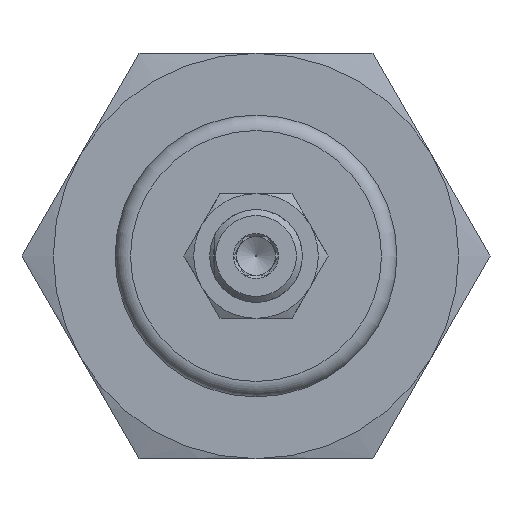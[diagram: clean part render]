
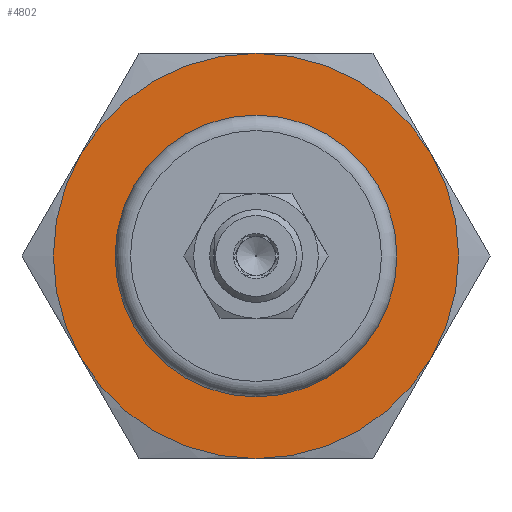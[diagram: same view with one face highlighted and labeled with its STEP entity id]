
A CAD part, left-side view. The second image highlights one B-rep face of the part: STEP entity #4802.
In plain terms, the highlighted planar face has unit normal (-1, 0, 0).
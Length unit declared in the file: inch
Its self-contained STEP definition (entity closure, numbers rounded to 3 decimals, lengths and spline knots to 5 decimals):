
#4165=CARTESIAN_POINT('',(-0.63,0.565,0.));
#4166=VERTEX_POINT('',#4165);
#4167=CARTESIAN_POINT('',(-0.63,0.0,0.));
#4168=DIRECTION('',(1.0,0.0,0.0));
#4169=DIRECTION('',(0.0,1.0,0.0));
#4170=AXIS2_PLACEMENT_3D('',#4167,#4168,#4169);
#4171=CIRCLE('',#4170,0.565);
#4172=EDGE_CURVE('',#4166,#4166,#4171,.T.);
#4208=CARTESIAN_POINT('',(-0.63,0.70365,0.40625));
#4209=VERTEX_POINT('',#4208);
#4290=CARTESIAN_POINT('',(-0.63,0.70365,-0.40625));
#4291=VERTEX_POINT('',#4290);
#4354=CARTESIAN_POINT('',(-0.63,0.0,0.8125));
#4355=VERTEX_POINT('',#4354);
#4449=CARTESIAN_POINT('',(-0.63,0.0,-0.8125));
#4450=VERTEX_POINT('',#4449);
#4522=CARTESIAN_POINT('',(-0.63,-0.70365,-0.40625));
#4523=VERTEX_POINT('',#4522);
#4586=CARTESIAN_POINT('',(-0.63,-0.70365,0.40625));
#4587=VERTEX_POINT('',#4586);
#4624=CARTESIAN_POINT('',(-0.63,0.0,0.));
#4625=DIRECTION('',(-1.0,0.0,0.0));
#4626=DIRECTION('',(0.0,0.0,1.0));
#4627=AXIS2_PLACEMENT_3D('',#4624,#4625,#4626);
#4628=CIRCLE('',#4627,0.8125);
#4629=EDGE_CURVE('',#4291,#4450,#4628,.T.);
#4641=CARTESIAN_POINT('',(-0.63,0.0,0.));
#4642=DIRECTION('',(-1.0,0.0,0.0));
#4643=DIRECTION('',(0.0,0.0,1.0));
#4644=AXIS2_PLACEMENT_3D('',#4641,#4642,#4643);
#4645=CIRCLE('',#4644,0.8125);
#4646=EDGE_CURVE('',#4450,#4523,#4645,.T.);
#4658=CARTESIAN_POINT('',(-0.63,0.0,0.));
#4659=DIRECTION('',(-1.0,0.0,0.0));
#4660=DIRECTION('',(0.0,0.0,1.0));
#4661=AXIS2_PLACEMENT_3D('',#4658,#4659,#4660);
#4662=CIRCLE('',#4661,0.8125);
#4663=EDGE_CURVE('',#4523,#4587,#4662,.T.);
#4676=CARTESIAN_POINT('',(-0.63,0.0,0.));
#4677=DIRECTION('',(-1.0,0.0,0.0));
#4678=DIRECTION('',(0.0,0.0,1.0));
#4679=AXIS2_PLACEMENT_3D('',#4676,#4677,#4678);
#4680=CIRCLE('',#4679,0.8125);
#4681=EDGE_CURVE('',#4587,#4355,#4680,.T.);
#4693=CARTESIAN_POINT('',(-0.63,0.0,0.));
#4694=DIRECTION('',(-1.0,0.0,0.0));
#4695=DIRECTION('',(0.0,0.0,1.0));
#4696=AXIS2_PLACEMENT_3D('',#4693,#4694,#4695);
#4697=CIRCLE('',#4696,0.8125);
#4698=EDGE_CURVE('',#4355,#4209,#4697,.T.);
#4710=CARTESIAN_POINT('',(-0.63,0.0,0.));
#4711=DIRECTION('',(-1.0,0.0,0.0));
#4712=DIRECTION('',(0.0,0.0,1.0));
#4713=AXIS2_PLACEMENT_3D('',#4710,#4711,#4712);
#4714=CIRCLE('',#4713,0.8125);
#4715=EDGE_CURVE('',#4209,#4291,#4714,.T.);
#4786=CARTESIAN_POINT('',(-0.63,0.,0.));
#4787=DIRECTION('',(-1.0,0.0,0.0));
#4788=DIRECTION('',(0.0,0.0,1.0));
#4789=AXIS2_PLACEMENT_3D('',#4786,#4787,#4788);
#4790=PLANE('',#4789);
#4791=ORIENTED_EDGE('',*,*,#4629,.T.);
#4792=ORIENTED_EDGE('',*,*,#4646,.T.);
#4793=ORIENTED_EDGE('',*,*,#4663,.T.);
#4794=ORIENTED_EDGE('',*,*,#4681,.T.);
#4795=ORIENTED_EDGE('',*,*,#4698,.T.);
#4796=ORIENTED_EDGE('',*,*,#4715,.T.);
#4797=EDGE_LOOP('',(#4791,#4792,#4793,#4794,#4795,#4796));
#4798=FACE_OUTER_BOUND('',#4797,.T.);
#4799=ORIENTED_EDGE('',*,*,#4172,.T.);
#4800=EDGE_LOOP('',(#4799));
#4801=FACE_BOUND('',#4800,.T.);
#4802=ADVANCED_FACE('',(#4798,#4801),#4790,.T.);
